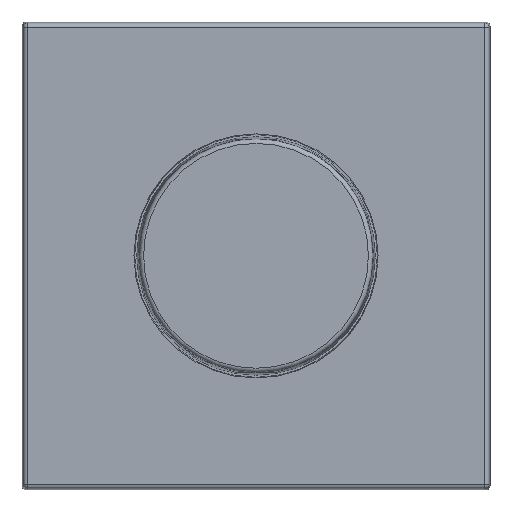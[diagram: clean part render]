
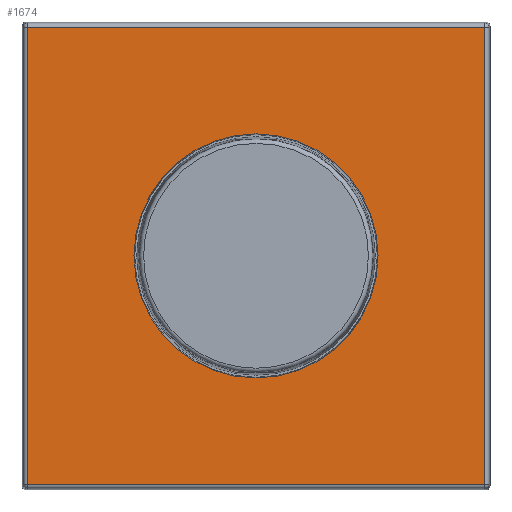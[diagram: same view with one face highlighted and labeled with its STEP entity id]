
A CAD part, top view. The second image highlights one B-rep face of the part: STEP entity #1674.
In plain terms, the highlighted planar face has unit normal (0, 0, 1).
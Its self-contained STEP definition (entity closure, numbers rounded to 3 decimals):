
#132=LINE('',#2612,#260);
#133=LINE('',#2615,#261);
#134=LINE('',#2617,#262);
#135=LINE('',#2619,#263);
#260=VECTOR('',#2127,1000.);
#261=VECTOR('',#2128,1000.);
#262=VECTOR('',#2129,1000.);
#263=VECTOR('',#2130,1000.);
#495=ORIENTED_EDGE('',*,*,#891,.T.);
#496=ORIENTED_EDGE('',*,*,#908,.F.);
#497=ORIENTED_EDGE('',*,*,#909,.F.);
#498=ORIENTED_EDGE('',*,*,#910,.F.);
#499=ORIENTED_EDGE('',*,*,#911,.F.);
#891=EDGE_CURVE('',#1115,#1115,#1248,.T.);
#908=EDGE_CURVE('',#1124,#1125,#132,.T.);
#909=EDGE_CURVE('',#1126,#1124,#133,.T.);
#910=EDGE_CURVE('',#1127,#1126,#134,.T.);
#911=EDGE_CURVE('',#1125,#1127,#135,.T.);
#1115=VERTEX_POINT('',#2578);
#1124=VERTEX_POINT('',#2613);
#1125=VERTEX_POINT('',#2614);
#1126=VERTEX_POINT('',#2616);
#1127=VERTEX_POINT('',#2618);
#1248=CIRCLE('',#1819,21.5);
#1355=EDGE_LOOP('',(#495));
#1356=EDGE_LOOP('',(#496,#497,#498,#499));
#1488=FACE_BOUND('',#1355,.T.);
#1489=FACE_BOUND('',#1356,.T.);
#1591=PLANE('',#1832);
#1674=ADVANCED_FACE('',(#1488,#1489),#1591,.T.);
#1819=AXIS2_PLACEMENT_3D('',#2577,#2087,#2088);
#1832=AXIS2_PLACEMENT_3D('',#2611,#2125,#2126);
#2087=DIRECTION('',(0.,0.,-1.));
#2088=DIRECTION('',(0.,1.,0.));
#2125=DIRECTION('',(0.,0.,1.));
#2126=DIRECTION('',(1.,0.,0.));
#2127=DIRECTION('',(1.,0.,0.));
#2128=DIRECTION('',(0.,1.,0.));
#2129=DIRECTION('',(-1.,0.,0.));
#2130=DIRECTION('',(0.,-1.,0.));
#2577=CARTESIAN_POINT('',(0.,0.,8.5));
#2578=CARTESIAN_POINT('',(0.,21.5,8.5));
#2611=CARTESIAN_POINT('',(0.,0.,8.5));
#2612=CARTESIAN_POINT('',(-41.,40.276,8.5));
#2613=CARTESIAN_POINT('',(-40.276,40.276,8.5));
#2614=CARTESIAN_POINT('',(40.276,40.276,8.5));
#2615=CARTESIAN_POINT('',(-40.276,-41.,8.5));
#2616=CARTESIAN_POINT('',(-40.276,-40.276,8.5));
#2617=CARTESIAN_POINT('',(41.,-40.276,8.5));
#2618=CARTESIAN_POINT('',(40.276,-40.276,8.5));
#2619=CARTESIAN_POINT('',(40.276,41.,8.5));
